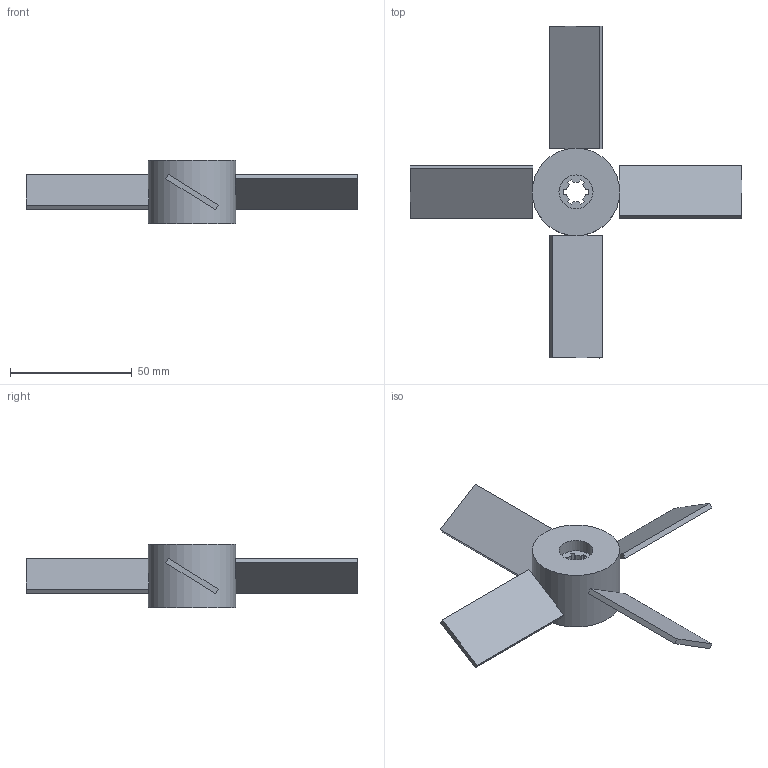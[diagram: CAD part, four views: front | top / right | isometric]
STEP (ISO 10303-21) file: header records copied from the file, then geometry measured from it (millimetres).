
FILE_DESCRIPTION(('Open CASCADE Model'),'2;1');
FILE_NAME('Open CASCADE Shape Model','2026-10-27T06:19:19',('Author'),( 'Open CASCADE'),'Open CASCADE STEP processor 8.0','build123d', 'Unknown');
FILE_SCHEMA(('AUTOMOTIVE_DESIGN { 1 0 10303 214 1 1 1 1 }'));
Length unit declared in the file: millimetre
Products named in the file (1): COMPOUND
Bounding box: 136.6 x 136.6 x 26 mm (x, y, z)
Volume: 34991.4 mm3; surface area: 16942.5 mm2
Topology: 5 solids, 5 shells, 53 faces, 126 edges, 84 vertices
Faces by surface type: plane 45, cylinder 8
Full cylindrical faces by diameter (mm): 14 x1, 36 x1
Entity records: 3064 total; most frequent: CARTESIAN_POINT 612, DIRECTION 406, ORIENTED_EDGE 252, PCURVE 252, DEFINITIONAL_REPRESENTATION 252, LINE 250, VECTOR 250, EDGE_CURVE 126
